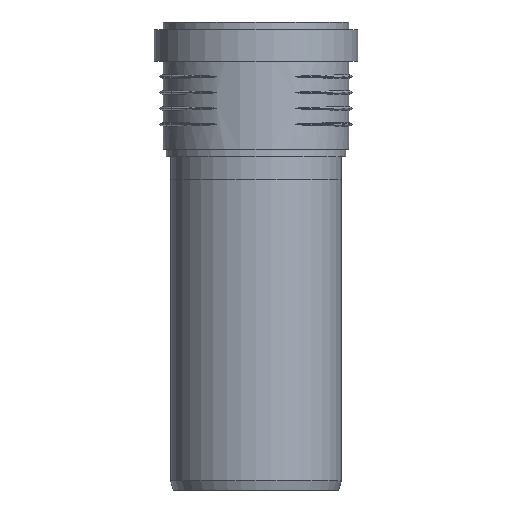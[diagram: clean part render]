
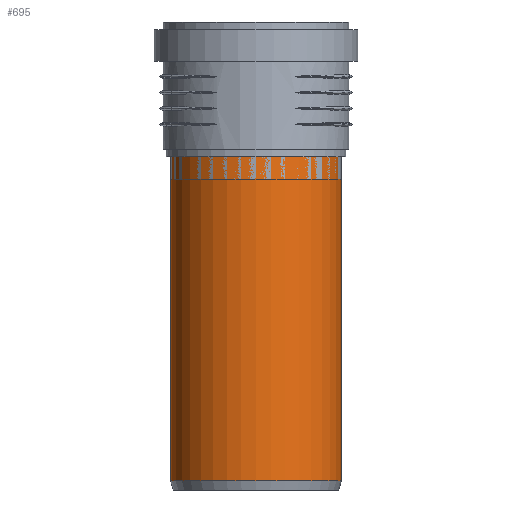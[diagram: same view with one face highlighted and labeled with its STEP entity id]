
A CAD part, left-side view. The second image highlights one B-rep face of the part: STEP entity #695.
In plain terms, the highlighted cylindrical face has radius 37.6 mm (diameter 75.2 mm), a full revolution.
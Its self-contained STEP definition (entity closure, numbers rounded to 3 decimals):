
#94=CYLINDRICAL_SURFACE($,#750,37.6);
#118=FACE_BOUND($,#198,.T.);
#153=FACE_OUTER_BOUND($,#197,.T.);
#197=EDGE_LOOP($,(#472));
#198=EDGE_LOOP($,(#473));
#272=CIRCLE($,#747,37.6);
#274=CIRCLE($,#751,37.6);
#311=VERTEX_POINT($,#1021);
#313=VERTEX_POINT($,#1027);
#382=EDGE_CURVE($,#311,#311,#272,.T.);
#384=EDGE_CURVE($,#313,#313,#274,.T.);
#472=ORIENTED_EDGE($,*,*,#384,.T.);
#473=ORIENTED_EDGE($,*,*,#382,.F.);
#695=ADVANCED_FACE($,(#153,#118),#94,.T.);
#747=AXIS2_PLACEMENT_3D($,#1022,#841,#842);
#750=AXIS2_PLACEMENT_3D($,#1026,#847,#848);
#751=AXIS2_PLACEMENT_3D($,#1028,#849,#850);
#841=DIRECTION('center_axis',(0.,0.,-1.));
#842=DIRECTION('ref_axis',(-1.,0.,0.));
#847=DIRECTION('center_axis',(0.,0.,1.));
#848=DIRECTION('ref_axis',(-1.,0.,0.));
#849=DIRECTION('center_axis',(0.,0.,-1.));
#850=DIRECTION('ref_axis',(-1.,0.,0.));
#1021=CARTESIAN_POINT('',(37.6,0.,-69.25));
#1022=CARTESIAN_POINT('Origin',(0.,0.,-69.25));
#1026=CARTESIAN_POINT('Origin',(0.,0.,0.));
#1027=CARTESIAN_POINT('',(37.6,0.,73.25));
#1028=CARTESIAN_POINT('Origin',(0.,0.,73.25));
